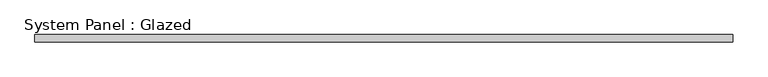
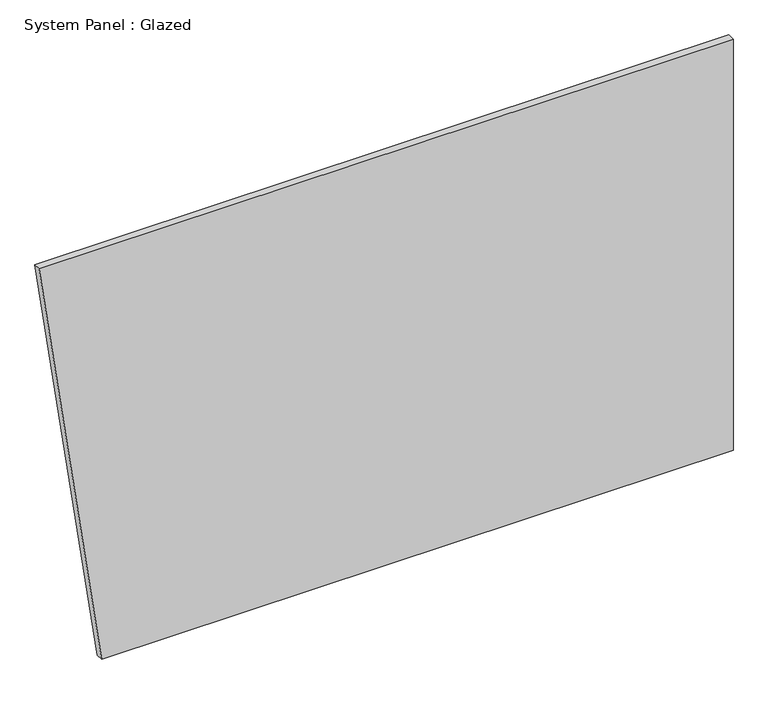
"""IFC4 building model written with IfcOpenShell, lengths in millimetres: plate geometry, System Panel : Glazed."""

from ifc_helpers import new_model, si_unit, frame, origin, place, context, project, spatial, polyline, outline, extrude, source, transform, mapped, element, save


def system_panel_glazed_e904b9b9(model_context):
    return source(origin(), model_context, "Body", "SweptSolid", [
        extrude(outline(polyline([(0.0, -997.7266189), (0.0, 1217.0071944), (1524.0, 1217.0071944), (1524.0, -1217.0071944), (0.0, -997.7266189)])), frame((0.0, 19.05, 0.0), z_axis=(0.0, 1.0, 0.0), x_axis=(0.0, 0.0, 1.0)), (0.0, 0.0, 1.0), 25.4),
    ])


if __name__ == "__main__":
    model = new_model("IFC4")
    model_context = context("Model", 3, world=origin())
    ifc_project = project(units=[si_unit("LENGTHUNIT", "METRE", prefix="MILLI")], contexts=[model_context])
    site = spatial("IfcSite", under=ifc_project)
    building = spatial("IfcBuilding", under=site)
    placement = place(None, origin())
    system_panel_glazed_shape = system_panel_glazed_e904b9b9(model_context)
    element("IfcPlate", 1, ObjectType="System Panel : Glazed", at=placement, inside=building, context=model_context, shape_type="MappedRepresentation", body=[
        mapped(system_panel_glazed_shape, transform((0.0, 0.0, 0.0), x_axis=(1.0, 0.0, 0.0), y_axis=(0.0, 1.0, 0.0), z_axis=(0.0, 0.0, 1.0))),
    ])
    save(model, "model.ifc")
